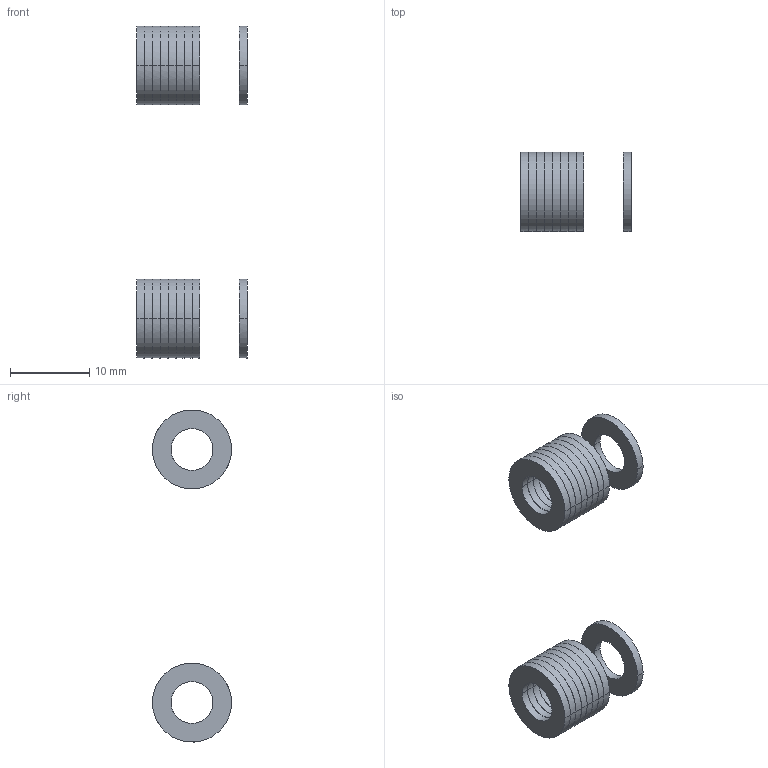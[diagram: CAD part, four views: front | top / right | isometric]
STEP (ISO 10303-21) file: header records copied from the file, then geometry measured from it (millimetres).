
FILE_DESCRIPTION(/* description */ (''),/* implementation_level */ '2;1');
FILE_NAME(/* name */ '6.y-drive#6.6#PWF5',/* time_stamp */ '2014-12-01T20:15:42+01:00',/* author */ (''),/* organization */ (''),/* preprocessor_version */ 'ST-DEVELOPER v14',/* originating_system */ '',/* authorisation */ '');
FILE_SCHEMA (('AUTOMOTIVE_DESIGN'));
Length unit declared in the file: millimetre
Products named in the file (2): Document; washer DIN125, form A, M5
Assembly tree (18 placements, depth 2):
  Document
    washer DIN125, form A, M5  x18
Bounding box: 14 x 10 x 41.98 mm (x, y, z)
Volume: 1019.7 mm3; surface area: 2904.7 mm2
Topology: 18 solids, 18 shells, 108 faces, 216 edges, 144 vertices
Faces by surface type: bspline 72, plane 36
Entity records: 548 total; most frequent: CARTESIAN_POINT 223, DIRECTION 44, ORIENTED_EDGE 24, PCURVE 24, DEFINITIONAL_REPRESENTATION 24, AXIS2_PLACEMENT_3D 23, PRODUCT_DEFINITION_SHAPE 20, ITEM_DEFINED_TRANSFORMATION 18
